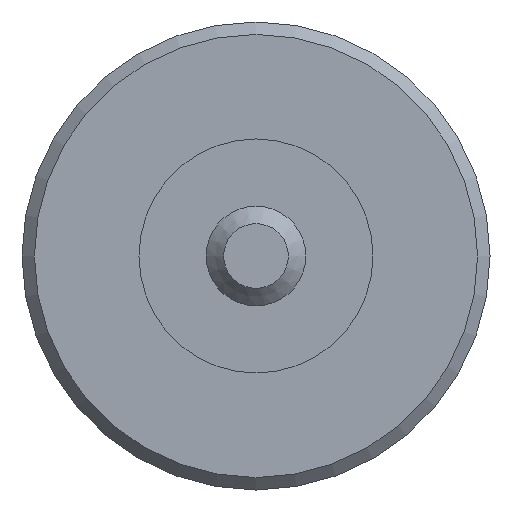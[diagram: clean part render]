
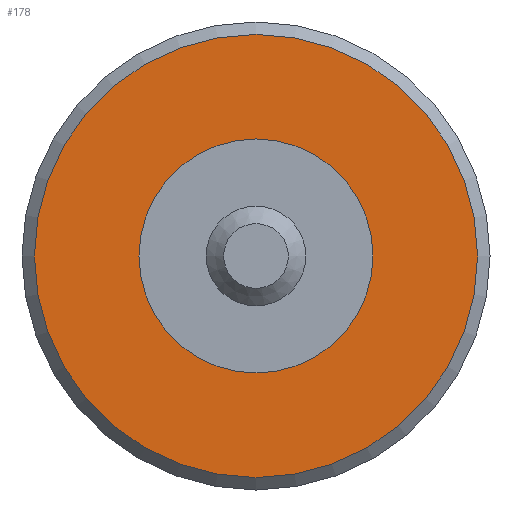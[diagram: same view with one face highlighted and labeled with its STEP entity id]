
A CAD part, left-side view. The second image highlights one B-rep face of the part: STEP entity #178.
In plain terms, the highlighted planar face has unit normal (-1, 0, 0).
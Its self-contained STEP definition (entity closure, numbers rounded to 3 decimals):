
#16=PLANE($,#205);
#31=FACE_BOUND($,#66,.T.);
#32=FACE_BOUND($,#67,.T.);
#66=EDGE_LOOP($,(#136));
#67=EDGE_LOOP($,(#137));
#85=CIRCLE($,#201,1.194);
#87=CIRCLE($,#206,2.261);
#99=VERTEX_POINT($,#298);
#101=VERTEX_POINT($,#305);
#113=EDGE_CURVE($,#99,#99,#85,.T.);
#115=EDGE_CURVE($,#101,#101,#87,.T.);
#136=ORIENTED_EDGE($,*,*,#113,.T.);
#137=ORIENTED_EDGE($,*,*,#115,.F.);
#178=ADVANCED_FACE($,(#31,#32),#16,.T.);
#201=AXIS2_PLACEMENT_3D($,#299,#246,#247);
#205=AXIS2_PLACEMENT_3D($,#304,#254,#255);
#206=AXIS2_PLACEMENT_3D($,#306,#256,#257);
#246=DIRECTION('center_axis',(1.,0.,0.));
#247=DIRECTION('ref_axis',(0.,1.,0.));
#254=DIRECTION('center_axis',(-1.,0.,0.));
#255=DIRECTION('ref_axis',(0.,0.,1.));
#256=DIRECTION('center_axis',(1.,0.,0.));
#257=DIRECTION('ref_axis',(0.,-1.,0.));
#298=CARTESIAN_POINT('',(-18.105,3.848,0.));
#299=CARTESIAN_POINT('Origin',(-18.105,2.654,0.));
#304=CARTESIAN_POINT('Origin',(-18.105,3.848,0.));
#305=CARTESIAN_POINT('',(-18.105,4.915,0.));
#306=CARTESIAN_POINT('Origin',(-18.105,2.654,0.));
